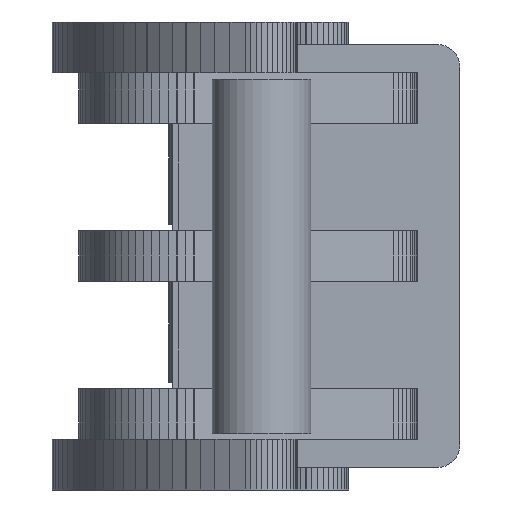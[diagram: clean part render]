
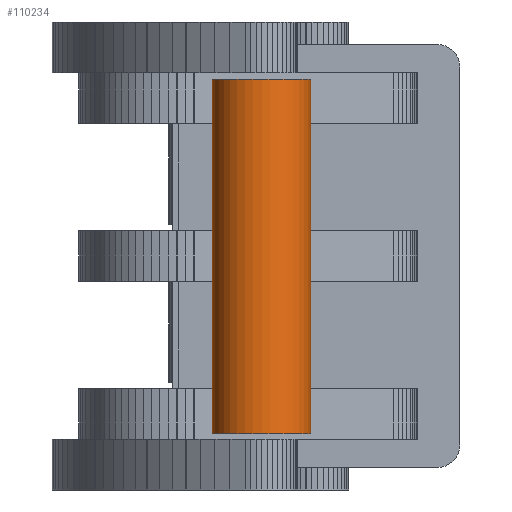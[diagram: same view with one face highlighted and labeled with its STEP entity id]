
A CAD part, front view. The second image highlights one B-rep face of the part: STEP entity #110234.
In plain terms, the highlighted cylindrical face has radius 17.5 mm (diameter 35 mm), a full revolution.
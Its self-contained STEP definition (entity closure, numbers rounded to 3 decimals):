
#110187 = PLANE('',#110188);
#110188 = AXIS2_PLACEMENT_3D('',#110189,#110190,#110191);
#110189 = CARTESIAN_POINT('',(-148.574,-148.409,-78.));
#110190 = DIRECTION('',(0.,0.,1.));
#110191 = DIRECTION('',(1.,0.,-0.));
#110219 = PLANE('',#110220);
#110220 = AXIS2_PLACEMENT_3D('',#110221,#110222,#110223);
#110221 = CARTESIAN_POINT('',(-148.574,-148.409,47.75));
#110222 = DIRECTION('',(0.,0.,1.));
#110223 = DIRECTION('',(1.,0.,-0.));
#110234 = ADVANCED_FACE('',(#110235),#110248,.T.);
#110235 = FACE_BOUND('',#110236,.T.);
#110236 = EDGE_LOOP('',(#110237,#110266,#110289,#110311));
#110237 = ORIENTED_EDGE('',*,*,#110238,.F.);
#110238 = EDGE_CURVE('',#110239,#110239,#110241,.T.);
#110239 = VERTEX_POINT('',#110240);
#110240 = CARTESIAN_POINT('',(-166.074,-148.409,47.75));
#110241 = SURFACE_CURVE('',#110242,(#110247,#110259),.PCURVE_S1.);
#110242 = CIRCLE('',#110243,17.5);
#110243 = AXIS2_PLACEMENT_3D('',#110244,#110245,#110246);
#110244 = CARTESIAN_POINT('',(-148.574,-148.409,47.75));
#110245 = DIRECTION('',(0.,0.,1.));
#110246 = DIRECTION('',(1.,0.,-0.));
#110247 = PCURVE('',#110248,#110253);
#110248 = CYLINDRICAL_SURFACE('',#110249,17.5);
#110249 = AXIS2_PLACEMENT_3D('',#110250,#110251,#110252);
#110250 = CARTESIAN_POINT('',(-148.574,-148.409,-78.));
#110251 = DIRECTION('',(0.,0.,1.));
#110252 = DIRECTION('',(1.,0.,-0.));
#110253 = DEFINITIONAL_REPRESENTATION('',(#110254),#110258);
#110254 = LINE('',#110255,#110256);
#110255 = CARTESIAN_POINT('',(-6.283,125.75));
#110256 = VECTOR('',#110257,1.);
#110257 = DIRECTION('',(1.,0.));
#110258 = ( GEOMETRIC_REPRESENTATION_CONTEXT(2) 
PARAMETRIC_REPRESENTATION_CONTEXT() REPRESENTATION_CONTEXT('2D SPACE',''
  ) );
#110259 = PCURVE('',#110219,#110260);
#110260 = DEFINITIONAL_REPRESENTATION('',(#110261),#110265);
#110261 = CIRCLE('',#110262,17.5);
#110262 = AXIS2_PLACEMENT_2D('',#110263,#110264);
#110263 = CARTESIAN_POINT('',(0.,0.));
#110264 = DIRECTION('',(1.,0.));
#110265 = ( GEOMETRIC_REPRESENTATION_CONTEXT(2) 
PARAMETRIC_REPRESENTATION_CONTEXT() REPRESENTATION_CONTEXT('2D SPACE',''
  ) );
#110266 = ORIENTED_EDGE('',*,*,#110267,.T.);
#110267 = EDGE_CURVE('',#110239,#110268,#110270,.T.);
#110268 = VERTEX_POINT('',#110269);
#110269 = CARTESIAN_POINT('',(-166.074,-148.409,-78.));
#110270 = SEAM_CURVE('',#110271,(#110275,#110282),.PCURVE_S1.);
#110271 = LINE('',#110272,#110273);
#110272 = CARTESIAN_POINT('',(-166.074,-148.409,-78.));
#110273 = VECTOR('',#110274,1.);
#110274 = DIRECTION('',(0.,0.,-1.));
#110275 = PCURVE('',#110248,#110276);
#110276 = DEFINITIONAL_REPRESENTATION('',(#110277),#110281);
#110277 = LINE('',#110278,#110279);
#110278 = CARTESIAN_POINT('',(-3.142,0.));
#110279 = VECTOR('',#110280,1.);
#110280 = DIRECTION('',(0.,-1.));
#110281 = ( GEOMETRIC_REPRESENTATION_CONTEXT(2) 
PARAMETRIC_REPRESENTATION_CONTEXT() REPRESENTATION_CONTEXT('2D SPACE',''
  ) );
#110282 = PCURVE('',#110248,#110283);
#110283 = DEFINITIONAL_REPRESENTATION('',(#110284),#110288);
#110284 = LINE('',#110285,#110286);
#110285 = CARTESIAN_POINT('',(3.142,0.));
#110286 = VECTOR('',#110287,1.);
#110287 = DIRECTION('',(0.,-1.));
#110288 = ( GEOMETRIC_REPRESENTATION_CONTEXT(2) 
PARAMETRIC_REPRESENTATION_CONTEXT() REPRESENTATION_CONTEXT('2D SPACE',''
  ) );
#110289 = ORIENTED_EDGE('',*,*,#110290,.T.);
#110290 = EDGE_CURVE('',#110268,#110268,#110291,.T.);
#110291 = SURFACE_CURVE('',#110292,(#110297,#110304),.PCURVE_S1.);
#110292 = CIRCLE('',#110293,17.5);
#110293 = AXIS2_PLACEMENT_3D('',#110294,#110295,#110296);
#110294 = CARTESIAN_POINT('',(-148.574,-148.409,-78.));
#110295 = DIRECTION('',(0.,0.,1.));
#110296 = DIRECTION('',(1.,0.,-0.));
#110297 = PCURVE('',#110248,#110298);
#110298 = DEFINITIONAL_REPRESENTATION('',(#110299),#110303);
#110299 = LINE('',#110300,#110301);
#110300 = CARTESIAN_POINT('',(-6.283,0.));
#110301 = VECTOR('',#110302,1.);
#110302 = DIRECTION('',(1.,0.));
#110303 = ( GEOMETRIC_REPRESENTATION_CONTEXT(2) 
PARAMETRIC_REPRESENTATION_CONTEXT() REPRESENTATION_CONTEXT('2D SPACE',''
  ) );
#110304 = PCURVE('',#110187,#110305);
#110305 = DEFINITIONAL_REPRESENTATION('',(#110306),#110310);
#110306 = CIRCLE('',#110307,17.5);
#110307 = AXIS2_PLACEMENT_2D('',#110308,#110309);
#110308 = CARTESIAN_POINT('',(0.,0.));
#110309 = DIRECTION('',(1.,0.));
#110310 = ( GEOMETRIC_REPRESENTATION_CONTEXT(2) 
PARAMETRIC_REPRESENTATION_CONTEXT() REPRESENTATION_CONTEXT('2D SPACE',''
  ) );
#110311 = ORIENTED_EDGE('',*,*,#110267,.F.);
